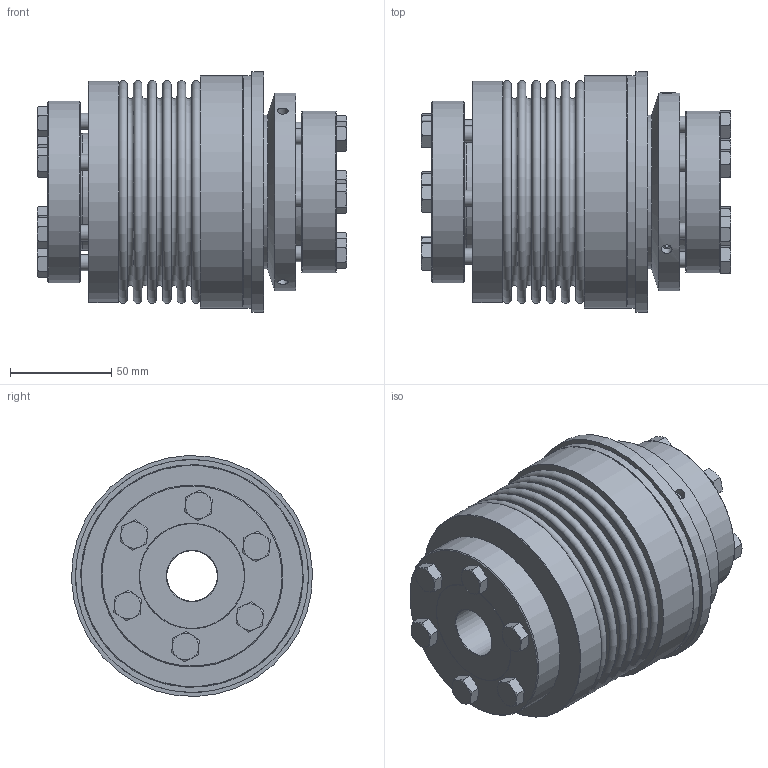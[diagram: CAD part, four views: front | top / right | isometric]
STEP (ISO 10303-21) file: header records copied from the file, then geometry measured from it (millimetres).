
FILE_DESCRIPTION( ( 'Unknown' ), '1' );
FILE_NAME( 'K:/Konstruktion/Korrigierte 3D Modelle/KBK-B-AA/KBK-BAA-300-152.stp', 'Unknown', ( 'Unknown' ), ( 'Unknown' ), 'PSStep 16.0.42', 'Unknown', ' ' );
FILE_SCHEMA( ( 'AUTOMOTIVE_DESIGN { 1 0 10303 214 1 1 1 1 }' ) );
Length unit declared in the file: millimetre
Products named in the file (18): Stellring 300_0; Druckring L-A-300_0; din_en_24017_m8x30_0; KBK L-A-300 Grundkörper_0; Druckring 300_0; BA6-300; Hex Screw GradeC_DIN_ISO 4018 - M8 x 30-NN; DR300_Standard; BA300_Standard; A-300; Assem1; BL300_Standard_0; Flansch BK300
Assembly tree (27 placements, depth 4):
  Assem1
    BL300_Standard_0
    Flansch BK300
    BA6-300
      Hex Screw GradeC_DIN_ISO 4018 - M8 x 30-NN  x6
      DR300_Standard
      BA300_Standard
    A-300
      Stellring 300_0
        Stellring 300_0
      Druckring 300_0
        Druckring 300_0
      KBK L-A-300 Grundkörper_0
        KBK L-A-300 Grundkörper_0
      Druckring L-A-300_0
        Druckring L-A-300_0
      din_en_24017_m8x30_0  x6
        din_en_24017_m8x30_0
Bounding box: 152.85 x 118.91 x 118.91 mm (x, y, z)
Volume: 694907.3 mm3; surface area: 259158.7 mm2
Topology: 20 solids, 20 shells, 409 faces, 846 edges, 537 vertices
Faces by surface type: plane 190, cone 118, cylinder 72, torus 29
Full cylindrical faces by diameter (mm): 3.242 x3, 5.2 x3, 6.647 x6, 6.8 x6, 8 x12, 8.5 x6, 9 x6, 11.63 x6, 25 x2, 52 x1, 55 x2, 57.995 x2, 76 x2, 80 x1, 83.5 x1, 88 x1, 90 x2, 98 x1, 98.5 x1, 99.8 x2, 101 x2, 109.5 x1, 115 x2, 119 x1
Entity records: 7612 total; most frequent: CARTESIAN_POINT 1281, DIRECTION 986, ORIENTED_EDGE 612, AXIS2_PLACEMENT_3D 469, EDGE_LOOP 418, EDGE_CURVE 306, FACE_OUTER_BOUND 295, VERTEX_POINT 270
